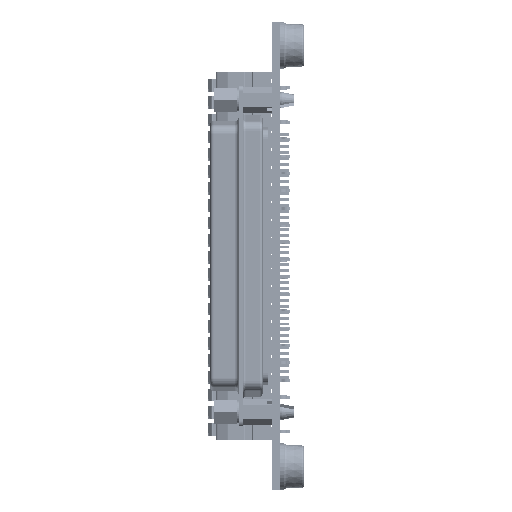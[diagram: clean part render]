
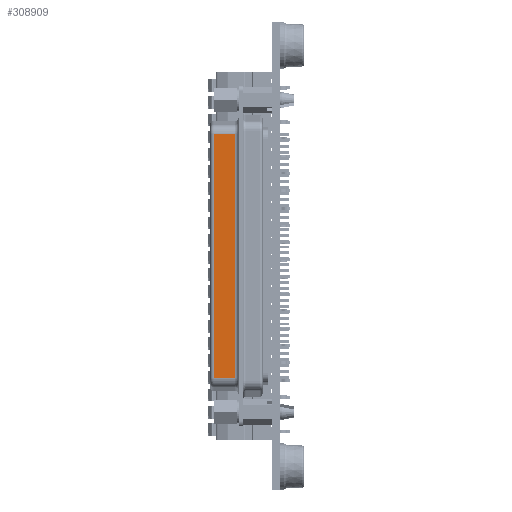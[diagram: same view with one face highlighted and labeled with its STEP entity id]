
A CAD part, left-side view. The second image highlights one B-rep face of the part: STEP entity #308909.
In plain terms, the highlighted planar face has unit normal (-1, 0, 0) as drawn and (0, -1, 0) by its records, which use the part's own axes.
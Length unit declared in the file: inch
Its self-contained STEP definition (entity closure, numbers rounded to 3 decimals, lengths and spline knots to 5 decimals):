
#4726 = CARTESIAN_POINT ( 'NONE',  ( -0.97491, -0.15551, 0.21654 ) ) ;
#13574 = EDGE_CURVE ( 'NONE', #120264, #336174, #42892, .T. ) ;
#14176 = CARTESIAN_POINT ( 'NONE',  ( 0.97491, -0.15551, 0.04724 ) ) ;
#16043 = VECTOR ( 'NONE', #333045, 39.37008 ) ;
#17090 = CARTESIAN_POINT ( 'NONE',  ( 0.97491, -0.15551, 0.24606 ) ) ;
#17701 = PLANE ( 'NONE',  #151709 ) ;
#40497 = DIRECTION ( 'NONE',  ( 0., 1., 0. ) ) ;
#42892 = LINE ( 'NONE', #4726, #266487 ) ;
#53771 = CARTESIAN_POINT ( 'NONE',  ( 0.97491, -0.15551, 0.04724 ) ) ;
#59449 = CARTESIAN_POINT ( 'NONE',  ( -0.97491, -0.15551, 0.21654 ) ) ;
#107378 = DIRECTION ( 'NONE',  ( -1., 0., 0. ) ) ;
#120152 = EDGE_CURVE ( 'NONE', #336174, #184167, #276240, .T. ) ;
#120264 = VERTEX_POINT ( 'NONE', #221590 ) ;
#122502 = DIRECTION ( 'NONE',  ( 1., 0., 0. ) ) ;
#126360 = ORIENTED_EDGE ( 'NONE', *, *, #210833, .T. ) ;
#128381 = ORIENTED_EDGE ( 'NONE', *, *, #13574, .T. ) ;
#137710 = ORIENTED_EDGE ( 'NONE', *, *, #266626, .F. ) ;
#144458 = EDGE_LOOP ( 'NONE', ( #205069, #126360, #137710, #128381 ) ) ;
#148423 = DIRECTION ( 'NONE',  ( 1., 0., 0. ) ) ;
#151709 = AXIS2_PLACEMENT_3D ( 'NONE', #273396, #40497, #122502 ) ;
#152899 = LINE ( 'NONE', #17090, #298974 ) ;
#171215 = VERTEX_POINT ( 'NONE', #53771 ) ;
#172646 = LINE ( 'NONE', #14176, #335009 ) ;
#184167 = VERTEX_POINT ( 'NONE', #331048 ) ;
#205069 = ORIENTED_EDGE ( 'NONE', *, *, #120152, .T. ) ;
#210833 = EDGE_CURVE ( 'NONE', #184167, #171215, #172646, .T. ) ;
#221590 = CARTESIAN_POINT ( 'NONE',  ( 0.97491, -0.15551, 0.21654 ) ) ;
#252252 = DIRECTION ( 'NONE',  ( 0., 0., -1. ) ) ;
#256485 = FACE_OUTER_BOUND ( 'NONE', #144458, .T. ) ;
#266487 = VECTOR ( 'NONE', #107378, 39.37008 ) ;
#266626 = EDGE_CURVE ( 'NONE', #120264, #171215, #152899, .T. ) ;
#273396 = CARTESIAN_POINT ( 'NONE',  ( -0.97491, -0.15551, 0.24606 ) ) ;
#276240 = LINE ( 'NONE', #336328, #16043 ) ;
#298974 = VECTOR ( 'NONE', #252252, 39.37008 ) ;
#308909 = ADVANCED_FACE ( 'NONE', ( #256485 ), #17701, .F. ) ;
#331048 = CARTESIAN_POINT ( 'NONE',  ( -0.97491, -0.15551, 0.04724 ) ) ;
#333045 = DIRECTION ( 'NONE',  ( 0., 0., -1. ) ) ;
#335009 = VECTOR ( 'NONE', #148423, 39.37008 ) ;
#336174 = VERTEX_POINT ( 'NONE', #59449 ) ;
#336328 = CARTESIAN_POINT ( 'NONE',  ( -0.97491, -0.15551, 0.24606 ) ) ;
